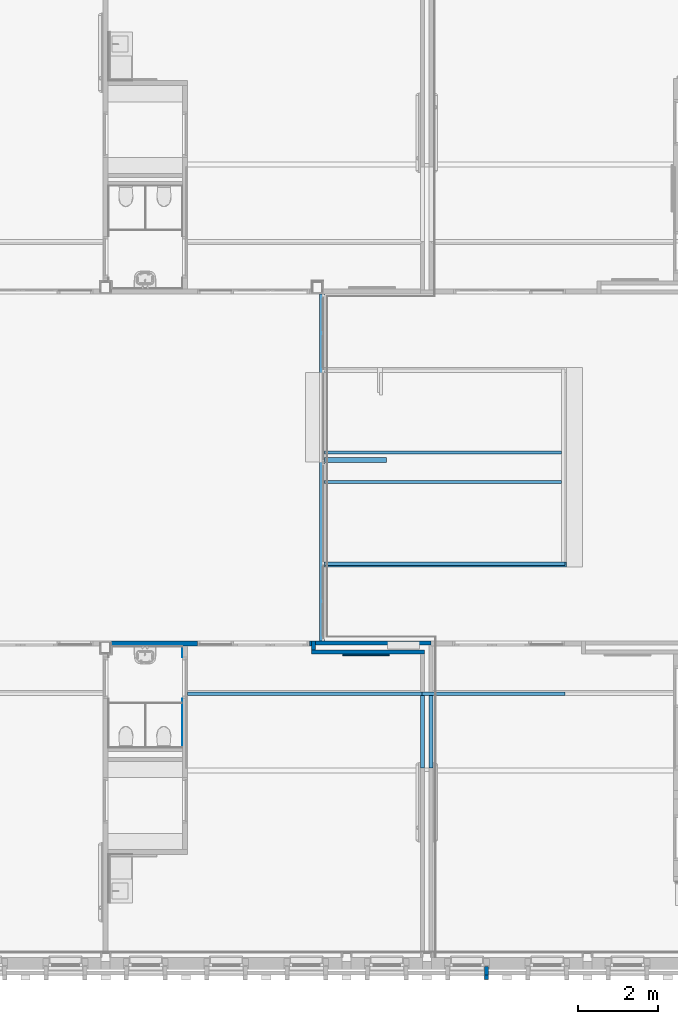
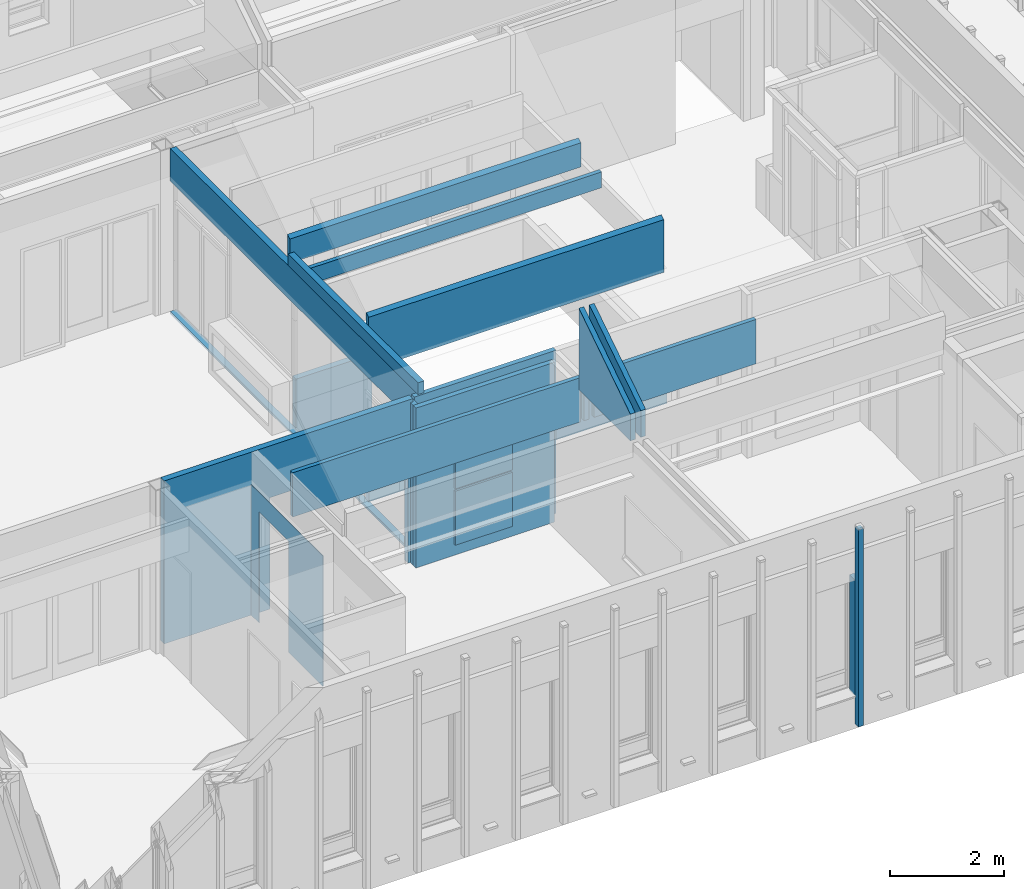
# One storey, part 37 of 118: 20 walls, 4 openings.
"""IFC2X3 building model written with IfcOpenShell, lengths in millimetres."""

import ifcopenshell
import ifcopenshell.guid

model = None  # the IFC model being written
_history = None  # IfcOwnerHistory: only IFC2X3 demands one
_inside = {}  # id of a spatial element -> (the spatial element, [elements in it])
_under = {}  # id of a project, library or spatial element -> (it, [spatial elements below it])
_declared = {}  # id of a project -> (the project, [libraries it declares])
_typed = {}  # id of a type object -> (the type object, [elements of that type])
_made_of = {}  # id of a material, layer set ... -> (it, [elements and type objects made of it])


def new_model(schema):
    """Start an empty IFC model of exactly this schema.

    Asked for "IFC4X3", IfcOpenShell would pick the latest addendum, in which some entities
    have other attributes; the version numbers below select the first issue.
    IFC2X3 requires an IfcOwnerHistory on every rooted entity: one is made here for all.
    """
    global model, _history
    if schema == "IFC4X3":
        model = ifcopenshell.file(schema_version=(4, 3, 0, 0))
    else:
        model = ifcopenshell.file(schema=schema)
    _inside.clear()
    _under.clear()
    _declared.clear()
    _typed.clear()
    _made_of.clear()
    _history = None
    if model.schema == "IFC2X3":
        org = make("IfcOrganization", Name="unknown")
        user = make(
            "IfcPersonAndOrganization",
            ThePerson=make("IfcPerson", FamilyName="unknown"),
            TheOrganization=org,
        )
        app = make(
            "IfcApplication",
            ApplicationDeveloper=org,
            Version="unknown",
            ApplicationFullName="unknown",
            ApplicationIdentifier="unknown",
        )
        _history = make(
            "IfcOwnerHistory",
            OwningUser=user,
            OwningApplication=app,
            ChangeAction="ADDED",
            CreationDate=0,
        )
    return model


def make(cls, **values):
    """One entity of the class cls with the attributes given. An attribute that is None is left unset."""
    return model.create_entity(
        cls, **{name: value for name, value in values.items() if value is not None}
    )


def entity(cls, *values):
    """Any entity or typed value of the class cls, its attributes in the order of the schema. None: left unset."""
    e = model.create_entity(cls)
    for i, value in enumerate(values):
        if value is not None:
            e[i] = value
    return e


def rooted(cls, **values):
    """An entity with a GlobalId (a new one), such as an element, a storey or a relation."""
    return make(cls, GlobalId=ifcopenshell.guid.new(), OwnerHistory=_history, **values)


def si_unit(unit_type, name, prefix=None):
    """IfcSIUnit, for example si_unit("LENGTHUNIT", "METRE", prefix="MILLI")."""
    return make("IfcSIUnit", UnitType=unit_type, Prefix=prefix, Name=name)


def converted_unit(unit_type, name, factor, base, dimensions=None, offset=None):
    """IfcConversionBasedUnit, such as the inch: factor (a typed value) times the base unit."""
    return make(
        "IfcConversionBasedUnit"
        if offset is None
        else "IfcConversionBasedUnitWithOffset",
        ConversionOffset=offset,
        Dimensions=None
        if dimensions is None
        else entity("IfcDimensionalExponents", *dimensions),
        UnitType=unit_type,
        Name=name,
        ConversionFactor=make(
            "IfcMeasureWithUnit", ValueComponent=factor, UnitComponent=base
        ),
    )


def derived_unit(unit_type, elements):
    """IfcDerivedUnit: a product of units, each with its exponent."""
    return make(
        "IfcDerivedUnit",
        Elements=[
            make("IfcDerivedUnitElement", Unit=unit, Exponent=power)
            for unit, power in elements
        ],
        UnitType=unit_type,
    )


def assignment(units):
    """IfcUnitAssignment: the units of a project."""
    return None if units is None else make("IfcUnitAssignment", Units=units)


def point(xyz):
    """IfcCartesianPoint."""
    return None if xyz is None else make("IfcCartesianPoint", Coordinates=xyz)


def direction(xyz):
    """IfcDirection."""
    return None if xyz is None else make("IfcDirection", DirectionRatios=xyz)


def frame(location, z_axis=None, x_axis=None):
    """IfcAxis2Placement3D, a coordinate frame: its origin and axes. An axis left out is left unset."""
    return make(
        "IfcAxis2Placement3D",
        Location=point(location),
        Axis=direction(z_axis),
        RefDirection=direction(x_axis),
    )


def frame_2d(location, x_axis=None):
    """IfcAxis2Placement2D, a coordinate frame in the plane: its origin and x axis."""
    return make(
        "IfcAxis2Placement2D", Location=point(location), RefDirection=direction(x_axis)
    )


def origin():
    """The frame at (0, 0, 0) with its axes left unset."""
    return frame((0.0, 0.0, 0.0))


def place(relative_to, where):
    """IfcLocalPlacement: puts the frame where relative to a parent placement (None: the world)."""
    return make(
        "IfcLocalPlacement", PlacementRelTo=relative_to, RelativePlacement=where
    )


def context(
    kind, dimensions, precision=None, world=None, true_north=None, identifier=None
):
    """IfcGeometricRepresentationContext, for example the 3D "Model" context."""
    return make(
        "IfcGeometricRepresentationContext",
        ContextIdentifier=identifier,
        ContextType=kind,
        CoordinateSpaceDimension=dimensions,
        Precision=precision,
        WorldCoordinateSystem=world,
        TrueNorth=true_north,
    )


def subcontext(parent, identifier, kind, view, scale=None):
    """IfcGeometricRepresentationSubContext, for example "Body" below "Model"."""
    return make(
        "IfcGeometricRepresentationSubContext",
        ContextIdentifier=identifier,
        ContextType=kind,
        ParentContext=parent,
        TargetScale=scale,
        TargetView=view,
    )


def project(units=None, contexts=None):
    """IfcProject with its units and contexts."""
    return rooted(
        "IfcProject",
        Name="project",
        RepresentationContexts=contexts,
        UnitsInContext=assignment(units),
    )


def spatial(cls, under=None, at=None, **own):
    """A site, building, storey or space (cls), placed at a placement, below another one or the project."""
    s = rooted(cls, ObjectPlacement=at, **own)
    if under is not None:
        _under.setdefault(under.id(), (under, []))[1].append(s)
    return s


def polyline(points):
    """IfcPolyline through the points."""
    return make("IfcPolyline", Points=[point(p) for p in points])


def profile(cls, at=None, kind="AREA", **sizes):
    """A parametric profile (cls). Its sizes go by their IFC names, for example OverallWidth=200.0."""
    return make(cls, ProfileType=kind, Position=at, **sizes)


def rectangle(**sizes):
    """IfcRectangleProfileDef."""
    return profile("IfcRectangleProfileDef", **sizes)


def extrude(swept, where, along, depth):
    """IfcExtrudedAreaSolid: the profile swept, set in the frame where, extruded along a direction by depth."""
    return make(
        "IfcExtrudedAreaSolid",
        SweptArea=swept,
        Position=where,
        ExtrudedDirection=direction(along),
        Depth=depth,
    )


def clip(a, b, op="DIFFERENCE"):
    """IfcBooleanClippingResult: the solid a cut by the half space b."""
    return make(
        "IfcBooleanClippingResult", Operator=op, FirstOperand=a, SecondOperand=b
    )


def bounded_halfspace(plane, agree, where, boundary):
    """IfcPolygonalBoundedHalfSpace: a half space limited to a polygon's prism."""
    return make(
        "IfcPolygonalBoundedHalfSpace",
        BaseSurface=make("IfcPlane", Position=plane),
        AgreementFlag=agree,
        Position=where,
        PolygonalBoundary=boundary,
    )


def shape(context_of_items, identifier, shape_type, items):
    """IfcShapeRepresentation: the items that make up one representation, for example the "Body"."""
    return make(
        "IfcShapeRepresentation",
        ContextOfItems=context_of_items,
        RepresentationIdentifier=identifier,
        RepresentationType=shape_type,
        Items=items,
    )


def material(Name=None, Category=None):
    """IfcMaterial."""
    return make("IfcMaterial", Name=Name, Category=Category)


def layer(
    of_material, thickness, ventilated=None, Name=None, Category=None, Priority=None
):
    """IfcMaterialLayer: one layer of a wall or slab, of a material (None: an air gap)."""
    return make(
        "IfcMaterialLayer",
        Material=of_material,
        LayerThickness=thickness,
        IsVentilated=ventilated,
        Name=Name,
        Category=Category,
        Priority=Priority,
    )


def layer_set(layers, Name=None):
    """IfcMaterialLayerSet."""
    return make("IfcMaterialLayerSet", MaterialLayers=layers, LayerSetName=Name)


def layer_usage(for_layer_set, set_direction, sense, offset, extent=None):
    """IfcMaterialLayerSetUsage: how a layer set lies in its element."""
    return make(
        "IfcMaterialLayerSetUsage",
        ForLayerSet=for_layer_set,
        LayerSetDirection=set_direction,
        DirectionSense=sense,
        OffsetFromReferenceLine=offset,
        ReferenceExtent=extent,
    )


def made_of(thing, what):
    """Note that an element or type object is made of a material, layer set ...; save() writes the relation."""
    if what is not None:
        _made_of.setdefault(what.id(), (what, []))[1].append(thing)
    return thing


def type_object(cls, material=None, **own):
    """A type object (cls), such as IfcWallType, which elements share."""
    return made_of(rooted(cls, **own), material)


def element(
    cls,
    number,
    at=None,
    inside=None,
    cuts=None,
    type_object=None,
    material=None,
    context=None,
    identifier="Body",
    shape_type=None,
    held_by="IfcProductDefinitionShape",
    body=None,
    shapes=None,
    **own,
):
    """One element of the class cls, such as IfcWall. Its Tag is "e" and its number.

    at: its placement. inside: the storey or other place that contains it. cuts: it is an
    opening in that element (IfcRelVoidsElement). A single representation is given by context,
    identifier, shape_type and body (its items); several are given by shapes. held_by: the class
    of the entity that holds the representations. save() writes the other relations.
    """
    e = rooted(cls, Tag="e%d" % number, ObjectPlacement=at, **own)
    if body is not None:
        shapes = [shape(context, identifier, shape_type, body)]
    if shapes is not None:
        e.Representation = make(held_by, Representations=shapes)
    if inside is not None:
        _inside.setdefault(inside.id(), (inside, []))[1].append(e)
    if cuts is not None:
        rooted(
            "IfcRelVoidsElement", RelatingBuildingElement=cuts, RelatedOpeningElement=e
        )
    if type_object is not None:
        _typed.setdefault(type_object.id(), (type_object, []))[1].append(e)
    return made_of(e, material)


def aggregate(whole, parts):
    """IfcRelAggregates: a whole, such as a stair, and the parts it consists of."""
    return rooted("IfcRelAggregates", RelatingObject=whole, RelatedObjects=parts)


def save(model, path):
    """Write the relations noted so far, then the file.

    IfcRelAggregates (storeys below a building ...), IfcRelContainedInSpatialStructure (elements
    in a storey), IfcRelDefinesByType, IfcRelAssociatesMaterial and IfcRelDeclares: one each for
    every whole, place, type object, material and project.
    """
    for whole, parts in _under.values():
        aggregate(whole, parts)
    for where, things in _inside.values():
        rooted(
            "IfcRelContainedInSpatialStructure",
            RelatedElements=things,
            RelatingStructure=where,
        )
    for kind, things in _typed.values():
        rooted("IfcRelDefinesByType", RelatedObjects=things, RelatingType=kind)
    for what, things in _made_of.values():
        rooted("IfcRelAssociatesMaterial", RelatedObjects=things, RelatingMaterial=what)
    for by, libraries in _declared.values():
        rooted("IfcRelDeclares", RelatingContext=by, RelatedDefinitions=libraries)
    model.write(path)


model = new_model("IFC2X3")

# Units and contexts
model_context = context("Model", 3, precision=0.01, world=origin(), true_north=direction((6.123031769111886e-17, 1.0)))
plan_context = context("Plan", 3, precision=0.01, world=origin(), true_north=direction((6.123031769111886e-17, 1.0)))
body_context = subcontext(model_context, "Body", "Model", "MODEL_VIEW")
ifc_project = project(units=[si_unit("LENGTHUNIT", "METRE", prefix="MILLI"), si_unit("AREAUNIT", "SQUARE_METRE"), si_unit("VOLUMEUNIT", "CUBIC_METRE"), converted_unit("PLANEANGLEUNIT", "DEGREE", entity("IfcRatioMeasure", 0.017453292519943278), si_unit("PLANEANGLEUNIT", "RADIAN"), dimensions=[0, 0, 0, 0, 0, 0, 0]), si_unit("MASSUNIT", "GRAM", prefix="KILO"), derived_unit("MASSDENSITYUNIT", [(si_unit("MASSUNIT", "GRAM", prefix="KILO"), 1), (si_unit("LENGTHUNIT", "METRE"), -3)]), derived_unit("IONCONCENTRATIONUNIT", [(si_unit("MASSUNIT", "GRAM", prefix="KILO"), 1), (si_unit("LENGTHUNIT", "METRE"), -3)]), derived_unit("MOMENTOFINERTIAUNIT", [(si_unit("LENGTHUNIT", "METRE"), 4)]), si_unit("TIMEUNIT", "SECOND"), si_unit("FREQUENCYUNIT", "HERTZ"), si_unit("THERMODYNAMICTEMPERATUREUNIT", "DEGREE_CELSIUS"), derived_unit("THERMALTRANSMITTANCEUNIT", [(si_unit("MASSUNIT", "GRAM", prefix="KILO"), 1), (si_unit("THERMODYNAMICTEMPERATUREUNIT", "KELVIN"), -1), (si_unit("TIMEUNIT", "SECOND"), -3)]), derived_unit("THERMALCONDUCTANCEUNIT", [(si_unit("MASSUNIT", "GRAM", prefix="KILO"), 1), (si_unit("THERMODYNAMICTEMPERATUREUNIT", "KELVIN"), -1), (si_unit("TIMEUNIT", "SECOND"), -3), (si_unit("LENGTHUNIT", "METRE"), 1)]), derived_unit("VOLUMETRICFLOWRATEUNIT", [(si_unit("LENGTHUNIT", "METRE"), 3), (si_unit("TIMEUNIT", "SECOND"), -1)]), derived_unit("MASSFLOWRATEUNIT", [(si_unit("MASSUNIT", "GRAM", prefix="KILO"), 1), (si_unit("TIMEUNIT", "SECOND"), -1)]), derived_unit("ROTATIONALFREQUENCYUNIT", [(si_unit("TIMEUNIT", "SECOND"), -1)]), si_unit("ELECTRICCURRENTUNIT", "AMPERE"), si_unit("ELECTRICVOLTAGEUNIT", "VOLT"), si_unit("POWERUNIT", "WATT"), si_unit("FORCEUNIT", "NEWTON", prefix="KILO"), si_unit("ILLUMINANCEUNIT", "LUX"), si_unit("LUMINOUSFLUXUNIT", "LUMEN"), si_unit("LUMINOUSINTENSITYUNIT", "CANDELA"), derived_unit("USERDEFINED", [(si_unit("MASSUNIT", "GRAM", prefix="KILO"), -1), (si_unit("LENGTHUNIT", "METRE"), -2), (si_unit("TIMEUNIT", "SECOND"), 3), (si_unit("LUMINOUSFLUXUNIT", "LUMEN"), 1)]), derived_unit("USERDEFINED", [(si_unit("MASSUNIT", "GRAM", prefix="KILO"), 1), (si_unit("TIMEUNIT", "SECOND"), -3), (si_unit("LENGTHUNIT", "METRE"), 3), (si_unit("ELECTRICCURRENTUNIT", "AMPERE"), -2)]), derived_unit("SOUNDPOWERUNIT", [(si_unit("MASSUNIT", "GRAM", prefix="KILO"), 1), (si_unit("TIMEUNIT", "SECOND"), -3), (si_unit("LENGTHUNIT", "METRE"), 2)]), derived_unit("SOUNDPRESSUREUNIT", [(si_unit("MASSUNIT", "GRAM", prefix="KILO"), 1), (si_unit("LENGTHUNIT", "METRE"), -1), (si_unit("TIMEUNIT", "SECOND"), -2)]), derived_unit("LINEARVELOCITYUNIT", [(si_unit("LENGTHUNIT", "METRE"), 1), (si_unit("TIMEUNIT", "SECOND"), -1)]), si_unit("PRESSUREUNIT", "PASCAL"), derived_unit("USERDEFINED", [(si_unit("MASSUNIT", "GRAM", prefix="KILO"), 1), (si_unit("LENGTHUNIT", "METRE"), -2), (si_unit("TIMEUNIT", "SECOND"), -2)]), derived_unit("LINEARFORCEUNIT", [(si_unit("MASSUNIT", "GRAM", prefix="KILO"), 1), (si_unit("TIMEUNIT", "SECOND"), -2)]), derived_unit("PLANARFORCEUNIT", [(si_unit("MASSUNIT", "GRAM", prefix="KILO"), 1), (si_unit("LENGTHUNIT", "METRE"), -1), (si_unit("TIMEUNIT", "SECOND"), -2)]), derived_unit("SPECIFICHEATCAPACITYUNIT", [(si_unit("THERMODYNAMICTEMPERATUREUNIT", "KELVIN"), -1), (si_unit("LENGTHUNIT", "METRE"), 2), (si_unit("TIMEUNIT", "SECOND"), -2)]), derived_unit("HEATINGVALUEUNIT", [(si_unit("LENGTHUNIT", "METRE"), 2), (si_unit("TIMEUNIT", "SECOND"), -2)]), derived_unit("VAPORPERMEABILITYUNIT", [(si_unit("LENGTHUNIT", "METRE"), -1), (si_unit("TIMEUNIT", "SECOND"), 1)]), derived_unit("DYNAMICVISCOSITYUNIT", [(si_unit("MASSUNIT", "GRAM", prefix="KILO"), 1), (si_unit("TIMEUNIT", "SECOND"), -1), (si_unit("LENGTHUNIT", "METRE"), -1)]), derived_unit("THERMALEXPANSIONCOEFFICIENTUNIT", [(si_unit("THERMODYNAMICTEMPERATUREUNIT", "KELVIN"), -1)]), derived_unit("MODULUSOFELASTICITYUNIT", [(si_unit("MASSUNIT", "GRAM", prefix="KILO"), 1), (si_unit("LENGTHUNIT", "METRE"), -1), (si_unit("TIMEUNIT", "SECOND"), -2)]), derived_unit("ISOTHERMALMOISTURECAPACITYUNIT", [(si_unit("LENGTHUNIT", "METRE"), 3), (si_unit("MASSUNIT", "GRAM", prefix="KILO"), -1)]), derived_unit("MOISTUREDIFFUSIVITYUNIT", [(si_unit("TIMEUNIT", "SECOND"), -1), (si_unit("LENGTHUNIT", "METRE"), 2)])], contexts=[model_context, plan_context])

# Site, building, storey
site_placement = place(None, origin())
site = spatial("IfcSite", under=ifc_project, at=site_placement, Name="Locatie", CompositionType="ELEMENT")
building_placement = place(site_placement, origin())
building = spatial("IfcBuilding", under=site, at=building_placement, Name="Bouwwerk", CompositionType="ELEMENT")
storey_placement = place(building_placement, frame((0.0, 0.0, 7800.0)))
storey = spatial("IfcBuildingStorey", under=building, at=storey_placement, Name="02 tweede verdieping", CompositionType="ELEMENT", Elevation=7800.000000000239)

# Walls
ifc_material_1 = material(Name="g2_metselwerk_geel licht")
ifc_layer_1 = layer(ifc_material_1, 100.0)
ifc_layer_set_1 = layer_set([ifc_layer_1], Name="Basic Wall:21_WA_metselwerk_licht_100_gen_bdg")
ifc_layer_usage_1 = layer_usage(ifc_layer_set_1, "AXIS2", "POSITIVE", -50.0)
wall_type_1 = type_object("IfcWallType", Name="Basic Wall:21_WA_metselwerk_licht_100_gen_bdg", PredefinedType="STANDARD", material=ifc_layer_set_1)
wall_1_placement = place(storey_placement, frame((25782.0, 9770.0, 603.0), z_axis=(0.0, 0.0, 1.0), x_axis=(0.0, -1.0, 0.0)))
element("IfcWallStandardCase", 1, at=wall_1_placement, inside=storey, type_object=wall_type_1, material=ifc_layer_usage_1, Name="Basic Wall:21_WA_metselwerk_licht_100_gen_bdg", ObjectType="Basic Wall:21_WA_metselwerk_licht_100_gen_bdg", context=body_context, shape_type="SweptSolid", body=[
    extrude(rectangle(XDim=210.00000000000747, YDim=100.00000000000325, at=frame_2d((105.00000000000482, 1.3145040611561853e-12), x_axis=(-1.0, 0.0))), origin(), (0.0, 0.0, 1.0), 2471.999999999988),
])
wall_2_placement = place(storey_placement, frame((25782.0, 9560.0, 0.0), z_axis=(0.0, 0.0, 1.0), x_axis=(0.0, -1.0, 0.0)))
element("IfcWallStandardCase", 2, at=wall_2_placement, inside=storey, type_object=wall_type_1, material=ifc_layer_usage_1, Name="Basic Wall:21_WA_metselwerk_licht_100_gen_bdg", ObjectType="Basic Wall:21_WA_metselwerk_licht_100_gen_bdg", context=body_context, shape_type="SweptSolid", body=[
    extrude(rectangle(XDim=115.00000000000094, YDim=100.00000000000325, at=frame_2d((57.50000000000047, 3.730349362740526e-13), x_axis=(-1.0, 0.0))), origin(), (0.0, 0.0, 1.0), 4231.99999999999),
])

# Wall, openings
ifc_material_2 = material(Name="f7_gipsvezel")
ifc_layer_2 = layer(ifc_material_2, 12.5)
ifc_material_3 = material(Name="f7_gips")
ifc_layer_3 = layer(ifc_material_3, 12.5)
ifc_material_4 = material(Name="n7_isolatie_glaswol")
ifc_layer_4 = layer(ifc_material_4, 75.0)
ifc_layer_5 = layer(ifc_material_3, 12.5)
ifc_layer_6 = layer(ifc_material_2, 12.5)
ifc_layer_set_2 = layer_set([ifc_layer_2, ifc_layer_3, ifc_layer_4, ifc_layer_5, ifc_layer_6], Name="Basic Wall: 25-75-25 _gen_bdg")
ifc_layer_usage_2 = layer_usage(ifc_layer_set_2, "AXIS2", "NEGATIVE", 62.50000000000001)
wall_type_2 = type_object("IfcWallType", Name="Basic Wall: 25-75-25 _gen_bdg", PredefinedType="STANDARD", material=ifc_layer_set_2)
wall_3_placement = place(storey_placement, frame((21684.50000020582, 26525.0, -50.0), z_axis=(0.0, 0.0, 1.0), x_axis=(0.0, -1.0, 0.0)))
wall_3 = element("IfcWallStandardCase", 3, at=wall_3_placement, inside=storey, type_object=wall_type_2, material=ifc_layer_usage_2, Name="Basic Wall: 25-75-25 _gen_bdg", ObjectType="Basic Wall: 25-75-25 _gen_bdg", context=body_context, shape_type="SweptSolid", body=[
    extrude(rectangle(XDim=8650.000000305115, YDim=125.0000000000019, at=frame_2d((4325.000000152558, -2.213340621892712e-12), x_axis=(-1.0, 0.0))), origin(), (0.0, 0.0, 1.0), 3550.0000000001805),
])
opening_1_placement = place(wall_3_placement, origin())
element("IfcOpeningElement", 4, at=opening_1_placement, cuts=wall_3, Name="Basic Wall: 25-75-25 _gen_bdg", ObjectType="Opening", context=body_context, shape_type="SweptSolid", body=[
    extrude(rectangle(XDim=2799.9999999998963, YDim=8650.000000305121, at=frame_2d((0.0, -2.2737367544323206e-12), x_axis=(1.0, 0.0))), frame((4325.0, -214.90000000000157, 1450.0), z_axis=(0.0, 1.0, 0.0), x_axis=(0.0, 0.0, 1.0)), (0.0, 0.0, 1.0), 429.8000000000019),
])
opening_2_placement = place(wall_3_placement, origin())
element("IfcOpeningElement", 5, at=opening_2_placement, cuts=wall_3, Name="Basic Wall: 25-75-25 _gen_bdg", ObjectType="Opening", context=body_context, shape_type="SweptSolid", body=[
    extrude(rectangle(XDim=2386.9999999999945, YDim=125.0000000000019, at=frame_2d((-2.1671553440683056e-12, 0.0), x_axis=(0.0, 1.0))), frame((-62.50000000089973, -3097.0, 1243.4999999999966), z_axis=(0.0, 1.0, 0.0), x_axis=(-1.0, 0.0, 0.0)), (0.0, 0.0, 1.0), 2796.000000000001),
])

# Walls
wall_4_placement = place(storey_placement, frame((21730.0, 19784.836886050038, 0.0)))
element("IfcWallStandardCase", 6, at=wall_4_placement, inside=storey, type_object=wall_type_2, material=ifc_layer_usage_2, Name="Basic Wall: 25-75-25 _gen_bdg", ObjectType="Basic Wall: 25-75-25 _gen_bdg", context=body_context, shape_type="SweptSolid", body=[
    extrude(rectangle(XDim=6047.999999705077, YDim=124.99999999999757, at=frame_2d((3023.9999998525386, 7.140954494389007e-13), x_axis=(-1.0, 0.0))), origin(), (0.0, 0.0, 1.0), 1049.9999999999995),
])
wall_5_placement = place(storey_placement, frame((23295.0, 22382.336885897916, -600.0), z_axis=(0.0, 0.0, 1.0), x_axis=(-1.0, 0.0, 0.0)))
element("IfcWallStandardCase", 7, at=wall_5_placement, inside=storey, type_object=wall_type_2, material=ifc_layer_usage_2, Name="Basic Wall: 25-75-25 _gen_bdg", ObjectType="Basic Wall: 25-75-25 _gen_bdg", context=body_context, shape_type="SweptSolid", body=[
    extrude(rectangle(XDim=1548.0000000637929, YDim=124.99999999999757, at=frame_2d((774.0000000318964, 6.750155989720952e-14), x_axis=(-1.0, 0.0))), origin(), (0.0, 0.0, 1.0), 1650.000000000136),
])

# Wall, opening
wall_6_placement = place(storey_placement, frame((16435.0, 17812.49999990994, 0.0)))
wall_6 = element("IfcWallStandardCase", 8, at=wall_6_placement, inside=storey, type_object=wall_type_2, material=ifc_layer_usage_2, Name="Basic Wall: 25-75-25 _gen_bdg", ObjectType="Basic Wall: 25-75-25 _gen_bdg", context=body_context, shape_type="SweptSolid", body=[
    extrude(rectangle(XDim=5046.000000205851, YDim=125.0000000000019, at=frame_2d((2523.0000001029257, 6.465938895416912e-13), x_axis=(-1.0, 0.0))), origin(), (0.0, 0.0, 1.0), 3500.0000000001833),
])
opening_3_placement = place(wall_6_placement, frame((-16435.0, -17812.49999990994, 0.0)))
element("IfcOpeningElement", 9, at=opening_3_placement, cuts=wall_6, Name="Basic Wall: 25-75-25 _gen_bdg", ObjectType="Opening", context=body_context, shape_type="SweptSolid", body=[
    extrude(rectangle(XDim=2386.9999999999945, YDim=2796.000000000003, at=frame_2d((-1.1368683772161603e-12, 0.0), x_axis=(0.0, 1.0))), frame((19985.500000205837, 16351.0, 1193.4999999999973), z_axis=(0.0, 1.0, 0.0), x_axis=(-1.0, 0.0, 0.0)), (0.0, 0.0, 1.0), 3048.0),
])

# Walls
ifc_layer_7 = layer(ifc_material_2, 12.5)
ifc_layer_8 = layer(ifc_material_3, 12.5)
ifc_layer_9 = layer(ifc_material_4, 75.0)
ifc_layer_set_3 = layer_set([ifc_layer_7, ifc_layer_8, ifc_layer_9], Name="Basic Wall:22_WA_voorzetwand_ms100 25-75 _gen_bdg")
ifc_layer_usage_3 = layer_usage(ifc_layer_set_3, "AXIS2", "NEGATIVE", 50.0)
wall_type_3 = type_object("IfcWallType", Name="Basic Wall:22_WA_voorzetwand_ms100 25-75 _gen_bdg", PredefinedType="STANDARD", material=ifc_layer_set_3)
wall_7_placement = place(storey_placement, frame((24245.0, 17605.0, 0.0), z_axis=(0.0, 0.0, 1.0), x_axis=(-1.0, 0.0, 0.0)))
element("IfcWallStandardCase", 10, at=wall_7_placement, inside=storey, type_object=wall_type_3, material=ifc_layer_usage_3, Name="Basic Wall:22_WA_voorzetwand_ms100 25-75 _gen_bdg", ObjectType="Basic Wall:22_WA_voorzetwand_ms100 25-75 _gen_bdg", context=body_context, shape_type="SweptSolid", body=[
    extrude(rectangle(XDim=2813.9999997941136, YDim=99.99999999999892, at=frame_2d((1406.9999998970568, 0.0), x_axis=(-1.0, 0.0))), origin(), (0.0, 0.0, 1.0), 3430.0000000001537),
])
wall_8_placement = place(storey_placement, frame((21481.0, 17655.0, 0.0), z_axis=(0.0, 0.0, 1.0), x_axis=(0.0, 1.0, 0.0)))
element("IfcWallStandardCase", 11, at=wall_8_placement, inside=storey, type_object=wall_type_3, material=ifc_layer_usage_3, Name="Basic Wall:22_WA_voorzetwand_ms100 25-75 _gen_bdg", ObjectType="Basic Wall:22_WA_voorzetwand_ms100 25-75 _gen_bdg", context=body_context, shape_type="SweptSolid", body=[
    extrude(rectangle(XDim=220.00000000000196, YDim=100.00000000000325, at=frame_2d((110.00000000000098, 0.0), x_axis=(-1.0, 0.0))), origin(), (0.0, 0.0, 1.0), 3430.0000000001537),
])
wall_9_placement = place(storey_placement, frame((24405.0, 16525.0, 3500.0), z_axis=(0.0, 0.0, 1.0), x_axis=(0.0, -1.0, 0.0)))
element("IfcWallStandardCase", 12, at=wall_9_placement, inside=storey, type_object=wall_type_3, material=ifc_layer_usage_3, Name="Basic Wall:22_WA_voorzetwand_ms100 25-75 _gen_bdg", ObjectType="Basic Wall:22_WA_voorzetwand_ms100 25-75 _gen_bdg", context=body_context, shape_type="Clipping", body=[
    clip(clip(extrude(rectangle(XDim=1811.9999998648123, YDim=100.00000000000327, at=frame_2d((905.9999999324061, -6.536993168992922e-13), x_axis=(-1.0, 0.0))), origin(), (0.0, 0.0, 1.0), 1750.1271556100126), bounded_halfspace(frame((0.0, 50.0, 1750.1271556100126), z_axis=(0.5446390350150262, 0.0, 0.8386705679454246), x_axis=(0.0, 1.0, 0.0)), False, frame((0.0, 50.0, 1750.1271556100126)), polyline([(0.0, 0.0), (0.0, -100.0), (1812.0, -100.0), (1812.0, 0.0), (0.0, 0.0)]))), bounded_halfspace(frame((1812.0, -50.0, 573.400596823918), z_axis=(-1.0, 0.0, 0.0), x_axis=(0.0, -1.0, 0.0)), True, frame((1812.0, -50.0, 573.400596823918), z_axis=(-1.0, 0.0, 0.0), x_axis=(0.0, -1.0, 0.0)), polyline([(0.0, 0.0), (-100.0, 0.0), (-100.0, -573.400596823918), (0.0, -573.400596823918), (0.0, 0.0)]))),
])
ifc_layer_usage_4 = layer_usage(ifc_layer_set_3, "AXIS2", "POSITIVE", -50.0)
wall_10_placement = place(storey_placement, frame((24195.0, 16525.0, 3500.0), z_axis=(0.0, 0.0, 1.0), x_axis=(0.0, -1.0, 0.0)))
element("IfcWallStandardCase", 13, at=wall_10_placement, inside=storey, type_object=wall_type_3, material=ifc_layer_usage_4, Name="Basic Wall:22_WA_voorzetwand_ms100 25-75 _gen_bdg", ObjectType="Basic Wall:22_WA_voorzetwand_ms100 25-75 _gen_bdg", context=body_context, shape_type="Clipping", body=[
    clip(clip(extrude(rectangle(XDim=1811.9999998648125, YDim=100.00000000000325, at=frame_2d((905.9999999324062, -1.0302869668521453e-13), x_axis=(-1.0, 0.0))), origin(), (0.0, 0.0, 1.0), 1750.1271556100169), bounded_halfspace(frame((0.0, 50.0, 1750.1271556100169), z_axis=(0.5446390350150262, 0.0, 0.8386705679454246), x_axis=(0.0, 1.0, 0.0)), False, frame((0.0, 50.0, 1750.1271556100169)), polyline([(0.0, 0.0), (0.0, -100.0), (1812.0, -100.0), (1812.0, 0.0), (0.0, 0.0)]))), bounded_halfspace(frame((1812.0, -50.0, 573.4005968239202), z_axis=(-1.0, 0.0, 0.0), x_axis=(0.0, -1.0, 0.0)), True, frame((1812.0, -50.0, 573.4005968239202), z_axis=(-1.0, 0.0, 0.0), x_axis=(0.0, -1.0, 0.0)), polyline([(0.0, 0.0), (-100.0, 0.0), (-100.0, -573.400596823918), (0.0, -573.400596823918), (0.0, 0.0)]))),
])
ifc_layer_10 = layer(ifc_material_2, 13.000000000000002)
ifc_material_5 = material(Name="ISR_Luchtspouw")
ifc_layer_11 = layer(ifc_material_5, 71.0)
ifc_layer_set_4 = layer_set([ifc_layer_10, ifc_layer_11], Name="Basic Wall:22_WA_koof_83 12-71")
ifc_layer_usage_5 = layer_usage(ifc_layer_set_4, "AXIS2", "NEGATIVE", 41.99999999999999)
wall_type_4 = type_object("IfcWallType", Name="Basic Wall:22_WA_koof_83 12-71", PredefinedType="STANDARD", material=ifc_layer_set_4)
wall_11_placement = place(storey_placement, frame((21747.0, 19805.33688605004, 2800.0)))
element("IfcWallStandardCase", 14, at=wall_11_placement, inside=storey, type_object=wall_type_4, material=ifc_layer_usage_5, Name="Basic Wall:22_WA_koof_83 12-71", ObjectType="Basic Wall:22_WA_koof_83 12-71", context=body_context, shape_type="Clipping", body=[
    clip(extrude(rectangle(XDim=5990.000000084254, YDim=83.99999999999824, at=frame_2d((2995.000000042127, -1.0658141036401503e-14), x_axis=(-1.0, 0.0))), origin(), (0.0, 0.0, 1.0), 1183.782348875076), bounded_halfspace(frame((2.7237332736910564e-09, -42.0, 1129.2321110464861), z_axis=(0.0, -0.544639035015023, 0.8386705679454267), x_axis=(1.0, 0.0, 0.0)), False, frame((2.7237332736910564e-09, -42.0, 1129.2321110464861)), polyline([(0.0, 0.0), (5990.0, 0.0), (5990.0, 84.0), (0.0, 84.0), (0.0, 0.0)]))),
])
wall_12_placement = place(storey_placement, frame((24180.0, 16567.0, 2800.0), z_axis=(0.0, 0.0, 1.0), x_axis=(-1.0, 0.0, 0.0)))
element("IfcWallStandardCase", 15, at=wall_12_placement, inside=storey, type_object=wall_type_4, material=ifc_layer_usage_5, Name="Basic Wall:22_WA_koof_83 12-71", ObjectType="Basic Wall:22_WA_koof_83 12-71", context=body_context, shape_type="SweptSolid", body=[
    extrude(rectangle(XDim=5842.500000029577, YDim=83.99999999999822, at=frame_2d((2921.2500000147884, 0.0), x_axis=(-1.0, 0.0))), origin(), (0.0, 0.0, 1.0), 950.0000000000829),
])
wall_13_placement = place(storey_placement, frame((21747.0, 22573.336885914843, 3410.0)))
element("IfcWallStandardCase", 16, at=wall_13_placement, inside=storey, type_object=wall_type_4, material=ifc_layer_usage_5, Name="Basic Wall:22_WA_koof_83 12-71", ObjectType="Basic Wall:22_WA_koof_83 12-71", context=body_context, shape_type="Clipping", body=[
    clip(extrude(rectangle(XDim=5905.999999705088, YDim=83.99999999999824, at=frame_2d((2952.999999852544, -1.3500311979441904e-13), x_axis=(-1.0, 0.0))), origin(), (0.0, 0.0, 1.0), 573.7823488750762), bounded_halfspace(frame((0.0, -42.0, 519.2321110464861), z_axis=(0.0, -0.544639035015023, 0.8386705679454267), x_axis=(1.0, 0.0, 0.0)), False, frame((0.0, -42.0, 519.2321110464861)), polyline([(0.0, 0.0), (5906.0, 0.0), (5906.0, 84.0), (0.0, 84.0), (0.0, 0.0)]))),
])
wall_14_placement = place(storey_placement, frame((27653.0, 21839.336886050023, 3410.0), z_axis=(0.0, 0.0, 1.0), x_axis=(-1.0, 0.0, 0.0)))
element("IfcWallStandardCase", 17, at=wall_14_placement, inside=storey, type_object=wall_type_4, material=ifc_layer_usage_5, Name="Basic Wall:22_WA_koof_83 12-71", ObjectType="Basic Wall:22_WA_koof_83 12-71", context=body_context, shape_type="SweptSolid", body=[
    extrude(rectangle(XDim=5905.999999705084, YDim=83.99999999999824, at=frame_2d((2952.999999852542, -1.3500311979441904e-13), x_axis=(-1.0, 0.0))), origin(), (0.0, 0.0, 1.0), 340.000000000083),
])
wall_15_placement = place(storey_placement, frame((27741.49999991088, 16567.0, 2800.0), z_axis=(0.0, 0.0, 1.0), x_axis=(-1.0, 0.0, 0.0)))
element("IfcWallStandardCase", 18, at=wall_15_placement, inside=storey, type_object=wall_type_4, material=ifc_layer_usage_5, Name="Basic Wall:22_WA_koof_83 12-71", ObjectType="Basic Wall:22_WA_koof_83 12-71", context=body_context, shape_type="Clipping", body=[
    clip(clip(extrude(rectangle(XDim=6103.999999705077, YDim=83.99999999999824, at=frame_2d((3051.9999998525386, 1.4921397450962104e-13), x_axis=(-1.0, 0.0))), origin(), (0.0, 0.0, 1.0), 950.0000000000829), bounded_halfspace(frame((3386.4999999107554, 42.0, 700.0), z_axis=(0.0, 0.0, 1.0), x_axis=(-1.0, 0.0, 0.0)), True, frame((3386.4999999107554, 42.0, 700.0), z_axis=(0.0, 0.0, 1.0), x_axis=(-1.0, 0.0, 0.0)), polyline([(0.0, 0.0), (100.0, 0.0), (100.0, 84.0), (0.0, 84.0), (0.0, 0.0)]))), bounded_halfspace(frame((3596.4999999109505, 42.0, 700.0), z_axis=(0.0, 0.0, 1.0), x_axis=(-1.0, 0.0, 0.0)), True, frame((3596.4999999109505, 42.0, 700.0), z_axis=(0.0, 0.0, 1.0), x_axis=(-1.0, 0.0, 0.0)), polyline([(0.0, 0.0), (100.0, 0.0), (100.0, 84.0), (0.0, 84.0), (0.0, 0.0)]))),
])
ifc_layer_12 = layer(ifc_material_4, 75.0)
ifc_layer_13 = layer(ifc_material_3, 12.5)
ifc_layer_14 = layer(ifc_material_2, 12.5)
ifc_layer_set_5 = layer_set([ifc_layer_12, ifc_layer_13, ifc_layer_14], Name="Basic Wall: 25-75 _gen_bdg")
ifc_layer_usage_6 = layer_usage(ifc_layer_set_5, "AXIS2", "POSITIVE", -50.0)
wall_type_5 = type_object("IfcWallType", Name="Basic Wall: 25-75 _gen_bdg", PredefinedType="STANDARD", material=ifc_layer_set_5)
wall_16_placement = place(storey_placement, frame((21481.0, 17825.0, 0.0)))
element("IfcWallStandardCase", 19, at=wall_16_placement, inside=storey, type_object=wall_type_5, material=ifc_layer_usage_6, Name="Basic Wall: 25-75 _gen_bdg", ObjectType="Basic Wall: 25-75 _gen_bdg", context=body_context, shape_type="SweptSolid", body=[
    extrude(rectangle(XDim=2873.9999997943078, YDim=99.99999999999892, at=frame_2d((1486.9999998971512, -5.648814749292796e-13), x_axis=(-1.0, 0.0))), origin(), (0.0, 0.0, 1.0), 3500.0000000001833),
])

# Wall, opening
ifc_material_6 = material(Name="g3_tegels_creme_150x150")
ifc_layer_15 = layer(ifc_material_6, 10.0)
ifc_layer_set_6 = layer_set([ifc_layer_15], Name="Basic Wall:21_WA_tegelwerk 10")
ifc_layer_usage_7 = layer_usage(ifc_layer_set_6, "AXIS2", "NEGATIVE", 4.999999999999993)
wall_type_6 = type_object("IfcWallType", Name="Basic Wall:21_WA_tegelwerk 10", PredefinedType="STANDARD", material=ifc_layer_set_6)
wall_17_placement = place(storey_placement, frame((18207.500000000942, 17750.0, 0.0), z_axis=(0.0, 0.0, 1.0), x_axis=(0.0, -1.0, 0.0)))
wall_17 = element("IfcWallStandardCase", 20, at=wall_17_placement, inside=storey, type_object=wall_type_6, material=ifc_layer_usage_7, Name="Basic Wall:21_WA_tegelwerk 10", ObjectType="Basic Wall:21_WA_tegelwerk 10", context=body_context, shape_type="SweptSolid", body=[
    extrude(rectangle(XDim=2514.9999806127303, YDim=10.000000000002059, at=frame_2d((1257.4999903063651, 1.1102230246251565e-14), x_axis=(-1.0, 0.0))), origin(), (0.0, 0.0, 1.0), 2800.0),
])
opening_4_placement = place(wall_17_placement, origin())
element("IfcOpeningElement", 21, at=opening_4_placement, cuts=wall_17, Name="Basic Wall:21_WA_tegelwerk 10", ObjectType="Opening", context=body_context, shape_type="SweptSolid", body=[
    extrude(rectangle(XDim=2387.000000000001, YDim=1033.9999999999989, at=frame_2d((2.1600499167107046e-12, 0.0), x_axis=(0.0, 1.0))), frame((792.0, -1519.0, 1193.5000000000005), z_axis=(0.0, 1.0, 0.0), x_axis=(-1.0, 0.0, 0.0)), (0.0, 0.0, 1.0), 3048.0000000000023),
])

# Walls
ifc_layer_16 = layer(ifc_material_5, 100.0)
ifc_layer_17 = layer(ifc_material_3, 12.5)
ifc_layer_18 = layer(ifc_material_2, 12.5)
ifc_layer_set_7 = layer_set([ifc_layer_16, ifc_layer_17, ifc_layer_18], Name="Basic Wall:22_WA_plafondrekje d=125")
ifc_layer_usage_8 = layer_usage(ifc_layer_set_7, "AXIS2", "POSITIVE", -62.49999999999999)
wall_type_7 = type_object("IfcWallType", Name="Basic Wall:22_WA_plafondrekje d=125", PredefinedType="STANDARD", material=ifc_layer_set_7)
wall_18_placement = place(storey_placement, frame((21684.499999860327, 22377.836885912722, 3500.0), z_axis=(0.0, 0.0, 1.0), x_axis=(0.0, -1.0, 0.0)))
element("IfcWallStandardCase", 22, at=wall_18_placement, inside=storey, type_object=wall_type_7, material=ifc_layer_usage_8, Name="Basic Wall:22_WA_plafondrekje d=125", ObjectType="Basic Wall:22_WA_plafondrekje d=125", context=body_context, shape_type="SweptSolid", body=[
    extrude(rectangle(XDim=4565.336886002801, YDim=124.99999999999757, at=frame_2d((2282.6684430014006, -6.394884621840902e-14), x_axis=(-1.0, 0.0))), origin(), (0.0, 0.0, 1.0), 249.99999999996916),
])
ifc_material_7 = material(Name="f7_binnenwandafwerking")
ifc_layer_19 = layer(ifc_material_7, 1.0)
ifc_layer_20 = layer(ifc_material_5, 39.0)
ifc_layer_set_8 = layer_set([ifc_layer_19, ifc_layer_20], Name="Basic Wall:NLRS_41_WA_akoestische panelen 40_gen_ISR")
ifc_layer_usage_9 = layer_usage(ifc_layer_set_8, "AXIS2", "POSITIVE", -20.0)
wall_type_8 = type_object("IfcWallType", Name="Basic Wall:NLRS_41_WA_akoestische panelen 40_gen_ISR", PredefinedType="STANDARD", material=ifc_layer_set_8)
for number, where, name in (
    (23, (22208.0, 17535.0, 1450.0), "Basic Wall:NLRS_41_WA_akoestische panelen 40_gen_ISR"),
    (24, (22208.0, 17535.0, 240.0), "Basic Wall:NLRS_41_WA_akoestische panelen 40_gen_ISR"),
):
    element("IfcWallStandardCase", number, at=place(storey_placement, frame(where)), inside=storey, type_object=wall_type_8, material=ifc_layer_usage_9, Name=name, ObjectType="Basic Wall:NLRS_41_WA_akoestische panelen 40_gen_ISR", context=body_context, shape_type="SweptSolid", body=[
        extrude(rectangle(XDim=1160.0000000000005, YDim=39.999999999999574, at=frame_2d((580.0000000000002, -1.3500311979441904e-13), x_axis=(-1.0, 0.0))), origin(), (0.0, 0.0, 1.0), 1160.0000000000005),
    ])

save(model, "model.ifc")
